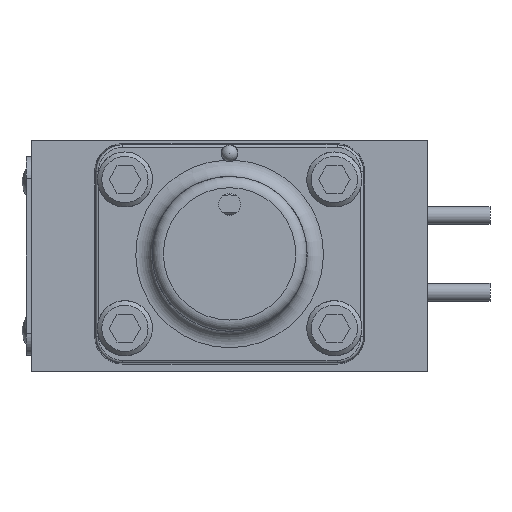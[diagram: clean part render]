
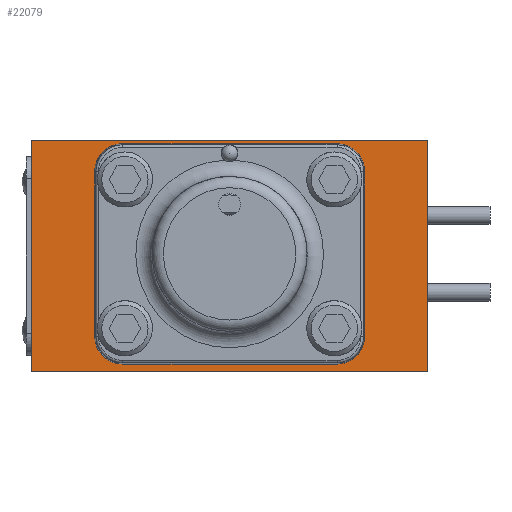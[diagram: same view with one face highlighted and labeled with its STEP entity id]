
A CAD part, left-side view. The second image highlights one B-rep face of the part: STEP entity #22079.
In plain terms, the highlighted planar face has unit normal (-1, 0, 0).
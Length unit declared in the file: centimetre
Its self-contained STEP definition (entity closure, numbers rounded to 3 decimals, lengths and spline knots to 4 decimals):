
#90=LINE('',#35071,#1453);
#91=LINE('',#35073,#1454);
#92=LINE('',#35075,#1455);
#93=LINE('',#35076,#1456);
#94=LINE('',#35081,#1457);
#95=LINE('',#35085,#1458);
#96=LINE('',#35089,#1459);
#97=LINE('',#35092,#1460);
#1453=VECTOR('',#26725,5.715);
#1454=VECTOR('',#26726,3.3325);
#1455=VECTOR('',#26727,5.715);
#1456=VECTOR('',#26728,3.3325);
#1457=VECTOR('',#26731,2.3622);
#1458=VECTOR('',#26734,3.0759);
#1459=VECTOR('',#26737,2.3622);
#1460=VECTOR('',#26740,3.0759);
#3647=PLANE('',#23666);
#4311=FACE_BOUND('',#6357,.T.);
#4833=FACE_OUTER_BOUND('',#6356,.T.);
#6356=EDGE_LOOP('',(#14901,#14902,#14903,#14904));
#6357=EDGE_LOOP('',(#14905,#14906,#14907,#14908,#14909,#14910,#14911,#14912));
#8030=CIRCLE('',#23667,0.4064);
#8031=CIRCLE('',#23668,0.4064);
#8032=CIRCLE('',#23669,0.4064);
#8033=CIRCLE('',#23670,0.4064);
#9371=VERTEX_POINT('',#35069);
#9372=VERTEX_POINT('',#35070);
#9373=VERTEX_POINT('',#35072);
#9374=VERTEX_POINT('',#35074);
#9375=VERTEX_POINT('',#35077);
#9376=VERTEX_POINT('',#35078);
#9377=VERTEX_POINT('',#35080);
#9378=VERTEX_POINT('',#35082);
#9379=VERTEX_POINT('',#35084);
#9380=VERTEX_POINT('',#35086);
#9381=VERTEX_POINT('',#35088);
#9382=VERTEX_POINT('',#35090);
#11497=EDGE_CURVE('',#9371,#9372,#90,.T.);
#11498=EDGE_CURVE('',#9372,#9373,#91,.T.);
#11499=EDGE_CURVE('',#9373,#9374,#92,.T.);
#11500=EDGE_CURVE('',#9374,#9371,#93,.T.);
#11501=EDGE_CURVE('',#9375,#9376,#8030,.T.);
#11502=EDGE_CURVE('',#9376,#9377,#94,.T.);
#11503=EDGE_CURVE('',#9377,#9378,#8031,.T.);
#11504=EDGE_CURVE('',#9378,#9379,#95,.T.);
#11505=EDGE_CURVE('',#9379,#9380,#8032,.T.);
#11506=EDGE_CURVE('',#9380,#9381,#96,.T.);
#11507=EDGE_CURVE('',#9381,#9382,#8033,.T.);
#11508=EDGE_CURVE('',#9382,#9375,#97,.T.);
#14901=ORIENTED_EDGE('',*,*,#11497,.T.);
#14902=ORIENTED_EDGE('',*,*,#11498,.T.);
#14903=ORIENTED_EDGE('',*,*,#11499,.T.);
#14904=ORIENTED_EDGE('',*,*,#11500,.T.);
#14905=ORIENTED_EDGE('',*,*,#11501,.T.);
#14906=ORIENTED_EDGE('',*,*,#11502,.T.);
#14907=ORIENTED_EDGE('',*,*,#11503,.T.);
#14908=ORIENTED_EDGE('',*,*,#11504,.T.);
#14909=ORIENTED_EDGE('',*,*,#11505,.T.);
#14910=ORIENTED_EDGE('',*,*,#11506,.T.);
#14911=ORIENTED_EDGE('',*,*,#11507,.T.);
#14912=ORIENTED_EDGE('',*,*,#11508,.T.);
#22079=ADVANCED_FACE('',(#4833,#4311),#3647,.T.);
#23666=AXIS2_PLACEMENT_3D('',#35068,#26723,#26724);
#23667=AXIS2_PLACEMENT_3D('',#35079,#26729,#26730);
#23668=AXIS2_PLACEMENT_3D('',#35083,#26732,#26733);
#23669=AXIS2_PLACEMENT_3D('',#35087,#26735,#26736);
#23670=AXIS2_PLACEMENT_3D('',#35091,#26738,#26739);
#26723=DIRECTION('center_axis',(-1.,0.,0.));
#26724=DIRECTION('ref_axis',(0.,0.,1.));
#26725=DIRECTION('',(0.,1.,0.));
#26726=DIRECTION('',(0.,0.,-1.));
#26727=DIRECTION('',(0.,-1.,0.));
#26728=DIRECTION('',(0.,0.,1.));
#26729=DIRECTION('center_axis',(1.,0.,0.));
#26730=DIRECTION('ref_axis',(0.,1.,0.));
#26731=DIRECTION('',(0.,0.,-1.));
#26732=DIRECTION('center_axis',(1.,0.,0.));
#26733=DIRECTION('ref_axis',(0.,0.,
1.));
#26734=DIRECTION('',(0.,1.,0.));
#26735=DIRECTION('center_axis',(1.,0.,0.));
#26736=DIRECTION('ref_axis',(0.,-1.,0.));
#26737=DIRECTION('',(0.,0.,1.));
#26738=DIRECTION('center_axis',(1.,0.,0.));
#26739=DIRECTION('ref_axis',(0.,0.,
-1.));
#26740=DIRECTION('',(0.,-1.,0.));
#35068=CARTESIAN_POINT('Origin',(-4.7117,-2.8575,0.));
#35069=CARTESIAN_POINT('',(-4.7117,-2.8575,1.6662));
#35070=CARTESIAN_POINT('',(-4.7117,2.8575,1.6662));
#35071=CARTESIAN_POINT('',(-4.7117,-2.8575,1.6662));
#35072=CARTESIAN_POINT('',(-4.7117,2.8575,-1.6662));
#35073=CARTESIAN_POINT('',(-4.7117,2.8575,0.));
#35074=CARTESIAN_POINT('',(-4.7117,-2.8575,-1.6662));
#35075=CARTESIAN_POINT('',(-4.7117,-2.8575,-1.6662));
#35076=CARTESIAN_POINT('',(-4.7117,-2.8575,0.));
#35077=CARTESIAN_POINT('',(-4.7117,-1.538,1.618));
#35078=CARTESIAN_POINT('',(-4.7117,-1.9444,1.2116));
#35079=CARTESIAN_POINT('Origin',(-4.7117,-1.538,1.2116));
#35080=CARTESIAN_POINT('',(-4.7117,-1.9444,-1.1506));
#35081=CARTESIAN_POINT('',(-4.7117,-1.9444,1.2116));
#35082=CARTESIAN_POINT('',(-4.7117,-1.538,-1.557));
#35083=CARTESIAN_POINT('Origin',(-4.7117,-1.538,-1.1506));
#35084=CARTESIAN_POINT('',(-4.7117,1.538,-1.557));
#35085=CARTESIAN_POINT('',(-4.7117,-1.538,-1.557));
#35086=CARTESIAN_POINT('',(-4.7117,1.9444,-1.1506));
#35087=CARTESIAN_POINT('Origin',(-4.7117,1.538,-1.1506));
#35088=CARTESIAN_POINT('',(-4.7117,1.9444,1.2116));
#35089=CARTESIAN_POINT('',(-4.7117,1.9444,-1.1506));
#35090=CARTESIAN_POINT('',(-4.7117,1.538,1.618));
#35091=CARTESIAN_POINT('Origin',(-4.7117,1.538,1.2116));
#35092=CARTESIAN_POINT('',(-4.7117,1.538,1.618));
